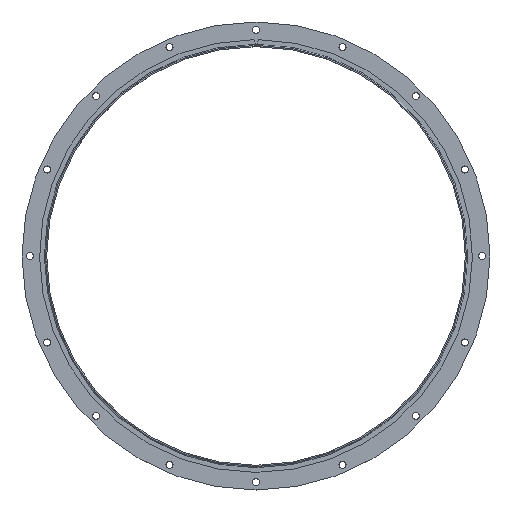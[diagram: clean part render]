
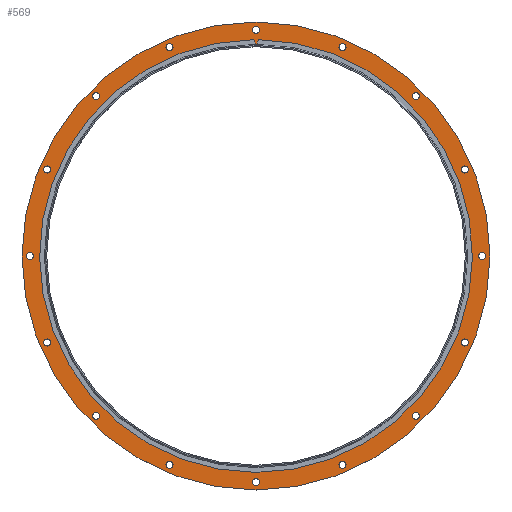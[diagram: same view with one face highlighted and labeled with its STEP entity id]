
A CAD part, top view. The second image highlights one B-rep face of the part: STEP entity #569.
In plain terms, the highlighted planar face has unit normal (0, 0, 1).
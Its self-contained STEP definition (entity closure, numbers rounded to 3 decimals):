
#61=PLANE('',#696);
#88=FACE_BOUND('',#191,.T.);
#89=FACE_BOUND('',#192,.T.);
#90=FACE_BOUND('',#193,.T.);
#91=FACE_BOUND('',#194,.T.);
#92=FACE_BOUND('',#195,.T.);
#93=FACE_BOUND('',#196,.T.);
#94=FACE_BOUND('',#197,.T.);
#95=FACE_BOUND('',#198,.T.);
#96=FACE_BOUND('',#199,.T.);
#97=FACE_BOUND('',#200,.T.);
#98=FACE_BOUND('',#201,.T.);
#99=FACE_BOUND('',#202,.T.);
#100=FACE_BOUND('',#203,.T.);
#101=FACE_BOUND('',#204,.T.);
#102=FACE_BOUND('',#205,.T.);
#103=FACE_BOUND('',#206,.T.);
#104=FACE_BOUND('',#207,.T.);
#140=FACE_OUTER_BOUND('',#190,.T.);
#190=EDGE_LOOP('',(#438));
#191=EDGE_LOOP('',(#439));
#192=EDGE_LOOP('',(#440));
#193=EDGE_LOOP('',(#441));
#194=EDGE_LOOP('',(#442));
#195=EDGE_LOOP('',(#443));
#196=EDGE_LOOP('',(#444));
#197=EDGE_LOOP('',(#445));
#198=EDGE_LOOP('',(#446));
#199=EDGE_LOOP('',(#447));
#200=EDGE_LOOP('',(#448));
#201=EDGE_LOOP('',(#449));
#202=EDGE_LOOP('',(#450));
#203=EDGE_LOOP('',(#451));
#204=EDGE_LOOP('',(#452));
#205=EDGE_LOOP('',(#453));
#206=EDGE_LOOP('',(#454));
#207=EDGE_LOOP('',(#455));
#238=CIRCLE('',#643,357.5);
#240=CIRCLE('',#646,6.);
#242=CIRCLE('',#649,6.);
#244=CIRCLE('',#652,6.);
#246=CIRCLE('',#655,6.);
#248=CIRCLE('',#658,6.);
#250=CIRCLE('',#661,6.);
#252=CIRCLE('',#664,6.);
#254=CIRCLE('',#667,6.);
#256=CIRCLE('',#670,6.);
#258=CIRCLE('',#673,6.);
#260=CIRCLE('',#676,6.);
#262=CIRCLE('',#679,6.);
#264=CIRCLE('',#682,6.);
#266=CIRCLE('',#685,6.);
#268=CIRCLE('',#688,6.);
#270=CIRCLE('',#691,6.);
#272=CIRCLE('',#694,398.5);
#284=VERTEX_POINT('',#918);
#286=VERTEX_POINT('',#923);
#288=VERTEX_POINT('',#928);
#290=VERTEX_POINT('',#933);
#292=VERTEX_POINT('',#938);
#294=VERTEX_POINT('',#943);
#296=VERTEX_POINT('',#948);
#298=VERTEX_POINT('',#953);
#300=VERTEX_POINT('',#958);
#302=VERTEX_POINT('',#963);
#304=VERTEX_POINT('',#968);
#306=VERTEX_POINT('',#973);
#308=VERTEX_POINT('',#978);
#310=VERTEX_POINT('',#983);
#312=VERTEX_POINT('',#988);
#314=VERTEX_POINT('',#993);
#316=VERTEX_POINT('',#998);
#318=VERTEX_POINT('',#1003);
#338=EDGE_CURVE('',#284,#284,#238,.T.);
#340=EDGE_CURVE('',#286,#286,#240,.T.);
#342=EDGE_CURVE('',#288,#288,#242,.T.);
#344=EDGE_CURVE('',#290,#290,#244,.T.);
#346=EDGE_CURVE('',#292,#292,#246,.T.);
#348=EDGE_CURVE('',#294,#294,#248,.T.);
#350=EDGE_CURVE('',#296,#296,#250,.T.);
#352=EDGE_CURVE('',#298,#298,#252,.T.);
#354=EDGE_CURVE('',#300,#300,#254,.T.);
#356=EDGE_CURVE('',#302,#302,#256,.T.);
#358=EDGE_CURVE('',#304,#304,#258,.T.);
#360=EDGE_CURVE('',#306,#306,#260,.T.);
#362=EDGE_CURVE('',#308,#308,#262,.T.);
#364=EDGE_CURVE('',#310,#310,#264,.T.);
#366=EDGE_CURVE('',#312,#312,#266,.T.);
#368=EDGE_CURVE('',#314,#314,#268,.T.);
#370=EDGE_CURVE('',#316,#316,#270,.T.);
#372=EDGE_CURVE('',#318,#318,#272,.T.);
#438=ORIENTED_EDGE('',*,*,#372,.F.);
#439=ORIENTED_EDGE('',*,*,#338,.T.);
#440=ORIENTED_EDGE('',*,*,#340,.T.);
#441=ORIENTED_EDGE('',*,*,#342,.T.);
#442=ORIENTED_EDGE('',*,*,#344,.T.);
#443=ORIENTED_EDGE('',*,*,#346,.T.);
#444=ORIENTED_EDGE('',*,*,#348,.T.);
#445=ORIENTED_EDGE('',*,*,#350,.T.);
#446=ORIENTED_EDGE('',*,*,#352,.T.);
#447=ORIENTED_EDGE('',*,*,#354,.T.);
#448=ORIENTED_EDGE('',*,*,#356,.T.);
#449=ORIENTED_EDGE('',*,*,#358,.T.);
#450=ORIENTED_EDGE('',*,*,#360,.T.);
#451=ORIENTED_EDGE('',*,*,#362,.T.);
#452=ORIENTED_EDGE('',*,*,#364,.T.);
#453=ORIENTED_EDGE('',*,*,#366,.T.);
#454=ORIENTED_EDGE('',*,*,#368,.T.);
#455=ORIENTED_EDGE('',*,*,#370,.T.);
#569=ADVANCED_FACE('',(#140,#88,#89,#90,#91,#92,#93,#94,#95,#96,#97,#98,
#99,#100,#101,#102,#103,#104),#61,.F.);
#643=AXIS2_PLACEMENT_3D('',#919,#733,#734);
#646=AXIS2_PLACEMENT_3D('',#924,#739,#740);
#649=AXIS2_PLACEMENT_3D('',#929,#745,#746);
#652=AXIS2_PLACEMENT_3D('',#934,#751,#752);
#655=AXIS2_PLACEMENT_3D('',#939,#757,#758);
#658=AXIS2_PLACEMENT_3D('',#944,#763,#764);
#661=AXIS2_PLACEMENT_3D('',#949,#769,#770);
#664=AXIS2_PLACEMENT_3D('',#954,#775,#776);
#667=AXIS2_PLACEMENT_3D('',#959,#781,#782);
#670=AXIS2_PLACEMENT_3D('',#964,#787,#788);
#673=AXIS2_PLACEMENT_3D('',#969,#793,#794);
#676=AXIS2_PLACEMENT_3D('',#974,#799,#800);
#679=AXIS2_PLACEMENT_3D('',#979,#805,#806);
#682=AXIS2_PLACEMENT_3D('',#984,#811,#812);
#685=AXIS2_PLACEMENT_3D('',#989,#817,#818);
#688=AXIS2_PLACEMENT_3D('',#994,#823,#824);
#691=AXIS2_PLACEMENT_3D('',#999,#829,#830);
#694=AXIS2_PLACEMENT_3D('',#1004,#835,#836);
#696=AXIS2_PLACEMENT_3D('',#1007,#839,#840);
#733=DIRECTION('center_axis',(0.,0.,-1.));
#734=DIRECTION('ref_axis',(-1.,0.,0.));
#739=DIRECTION('center_axis',(0.,0.,-1.));
#740=DIRECTION('ref_axis',(-1.,0.,0.));
#745=DIRECTION('center_axis',(0.,0.,-1.));
#746=DIRECTION('ref_axis',(-1.,0.,0.));
#751=DIRECTION('center_axis',(0.,0.,-1.));
#752=DIRECTION('ref_axis',(-1.,0.,0.));
#757=DIRECTION('center_axis',(0.,0.,-1.));
#758=DIRECTION('ref_axis',(-1.,0.,0.));
#763=DIRECTION('center_axis',(0.,0.,-1.));
#764=DIRECTION('ref_axis',(-1.,0.,0.));
#769=DIRECTION('center_axis',(0.,0.,-1.));
#770=DIRECTION('ref_axis',(-1.,0.,0.));
#775=DIRECTION('center_axis',(0.,0.,-1.));
#776=DIRECTION('ref_axis',(-1.,0.,0.));
#781=DIRECTION('center_axis',(0.,0.,-1.));
#782=DIRECTION('ref_axis',(-1.,0.,0.));
#787=DIRECTION('center_axis',(0.,0.,-1.));
#788=DIRECTION('ref_axis',(-1.,0.,0.));
#793=DIRECTION('center_axis',(0.,0.,-1.));
#794=DIRECTION('ref_axis',(-1.,0.,0.));
#799=DIRECTION('center_axis',(0.,0.,-1.));
#800=DIRECTION('ref_axis',(-1.,0.,0.));
#805=DIRECTION('center_axis',(0.,0.,-1.));
#806=DIRECTION('ref_axis',(-1.,0.,0.));
#811=DIRECTION('center_axis',(0.,0.,-1.));
#812=DIRECTION('ref_axis',(-1.,0.,0.));
#817=DIRECTION('center_axis',(0.,0.,-1.));
#818=DIRECTION('ref_axis',(-1.,0.,0.));
#823=DIRECTION('center_axis',(0.,0.,-1.));
#824=DIRECTION('ref_axis',(-1.,0.,0.));
#829=DIRECTION('center_axis',(0.,0.,-1.));
#830=DIRECTION('ref_axis',(-1.,0.,0.));
#835=DIRECTION('center_axis',(0.,0.,-1.));
#836=DIRECTION('ref_axis',(-1.,0.,0.));
#839=DIRECTION('center_axis',(0.,0.,-1.));
#840=DIRECTION('ref_axis',(-1.,0.,0.));
#918=CARTESIAN_POINT('',(357.5,0.,3.));
#919=CARTESIAN_POINT('Origin',(0.,0.,3.));
#923=CARTESIAN_POINT('',(153.333,355.694,3.));
#924=CARTESIAN_POINT('Origin',(147.333,355.694,3.));
#928=CARTESIAN_POINT('',(278.236,272.236,3.));
#929=CARTESIAN_POINT('Origin',(272.236,272.236,3.));
#933=CARTESIAN_POINT('',(361.694,147.333,3.));
#934=CARTESIAN_POINT('Origin',(355.694,147.333,3.));
#938=CARTESIAN_POINT('',(391.,0.,3.));
#939=CARTESIAN_POINT('Origin',(385.,0.,3.));
#943=CARTESIAN_POINT('',(361.694,-147.333,3.));
#944=CARTESIAN_POINT('Origin',(355.694,-147.333,3.));
#948=CARTESIAN_POINT('',(278.236,-272.236,3.));
#949=CARTESIAN_POINT('Origin',(272.236,-272.236,3.));
#953=CARTESIAN_POINT('',(153.333,-355.694,3.));
#954=CARTESIAN_POINT('Origin',(147.333,-355.694,3.));
#958=CARTESIAN_POINT('',(6.,-385.,3.));
#959=CARTESIAN_POINT('Origin',(0.,-385.,3.));
#963=CARTESIAN_POINT('',(-141.333,-355.694,3.));
#964=CARTESIAN_POINT('Origin',(-147.333,-355.694,3.));
#968=CARTESIAN_POINT('',(-266.236,-272.236,3.));
#969=CARTESIAN_POINT('Origin',(-272.236,-272.236,3.));
#973=CARTESIAN_POINT('',(-349.694,-147.333,3.));
#974=CARTESIAN_POINT('Origin',(-355.694,-147.333,3.));
#978=CARTESIAN_POINT('',(-379.,0.,3.));
#979=CARTESIAN_POINT('Origin',(-385.,0.,3.));
#983=CARTESIAN_POINT('',(-349.694,147.333,3.));
#984=CARTESIAN_POINT('Origin',(-355.694,147.333,3.));
#988=CARTESIAN_POINT('',(-266.236,272.236,3.));
#989=CARTESIAN_POINT('Origin',(-272.236,272.236,3.));
#993=CARTESIAN_POINT('',(-141.333,355.694,3.));
#994=CARTESIAN_POINT('Origin',(-147.333,355.694,3.));
#998=CARTESIAN_POINT('',(6.,385.,3.));
#999=CARTESIAN_POINT('Origin',(0.,385.,3.));
#1003=CARTESIAN_POINT('',(398.5,0.,3.));
#1004=CARTESIAN_POINT('Origin',(0.,0.,3.));
#1007=CARTESIAN_POINT('Origin',(0.,0.,3.));
